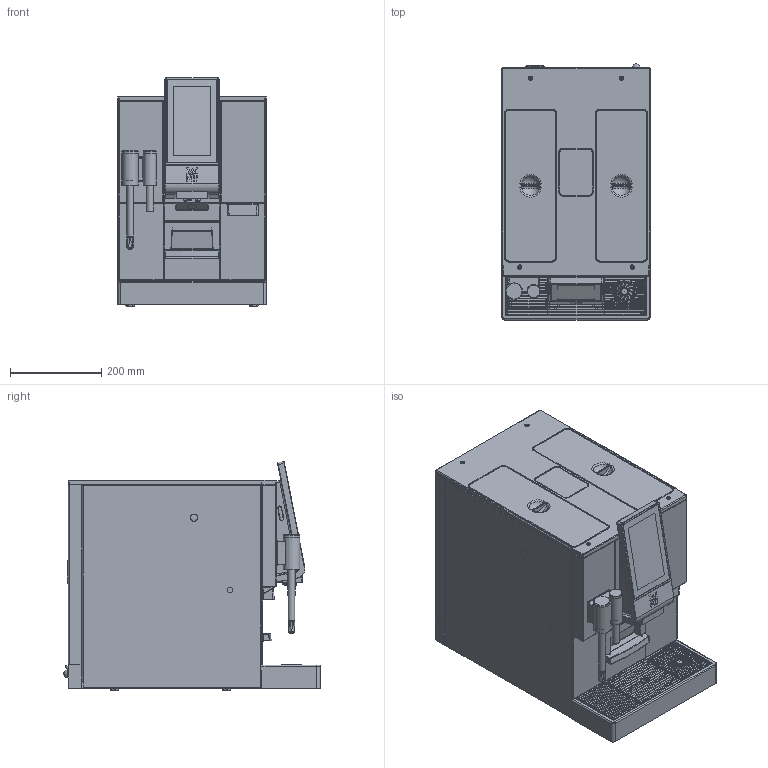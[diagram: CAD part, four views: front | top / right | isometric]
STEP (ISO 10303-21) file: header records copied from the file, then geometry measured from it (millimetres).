
FILE_DESCRIPTION(/* description */ (''),/* implementation_level */ '2;1');
FILE_NAME(/* name */ 'D:\Projekte\WMF\am\1100S\1100S_3D.stp',/* time_stamp */ '2016-12-28T06:29:35+01:00',/* author */ ('AM'),/* organization */ (''),/* preprocessor_version */ 'ST-DEVELOPER v16.1',/* originating_system */ 'Autodesk Inventor 2016',/* authorisation */ '');
FILE_SCHEMA (('AUTOMOTIVE_DESIGN { 1 0 10303 214 3 1 1 }'));
Products named in the file (1): 1100S_3D
Bounding box: 327.07 x 560.87 x 500.94 mm (x, y, z)
Volume: 67266461.5 mm3; surface area: 1481622.4 mm2
Topology: 1 solids, 2 shells, 3010 faces, 7539 edges, 4560 vertices
Faces by surface type: plane 1103, cylinder 956, bspline 636, torus 120, cone 107, sphere 88
Full cylindrical faces by diameter (mm): 1 x3, 3 x20, 4 x2, 5.65 x1, 6 x1, 6.2 x1, 6.8 x1, 8 x4, 11 x1, 12 x1, 12.1 x1, 13.8 x2, 15 x1, 15.8 x1, 16 x2, 16.56 x1, 17 x4, 20 x2, 21.3 x1, 24 x1, 29 x2, 32 x1, 36 x2, 39 x1
Entity records: 112682 total; most frequent: CARTESIAN_POINT 44215, ORIENTED_EDGE 14580, DIRECTION 13607, EDGE_CURVE 7285, AXIS2_PLACEMENT_3D 5100, VERTEX_POINT 4515, LINE 3407, VECTOR 3407
